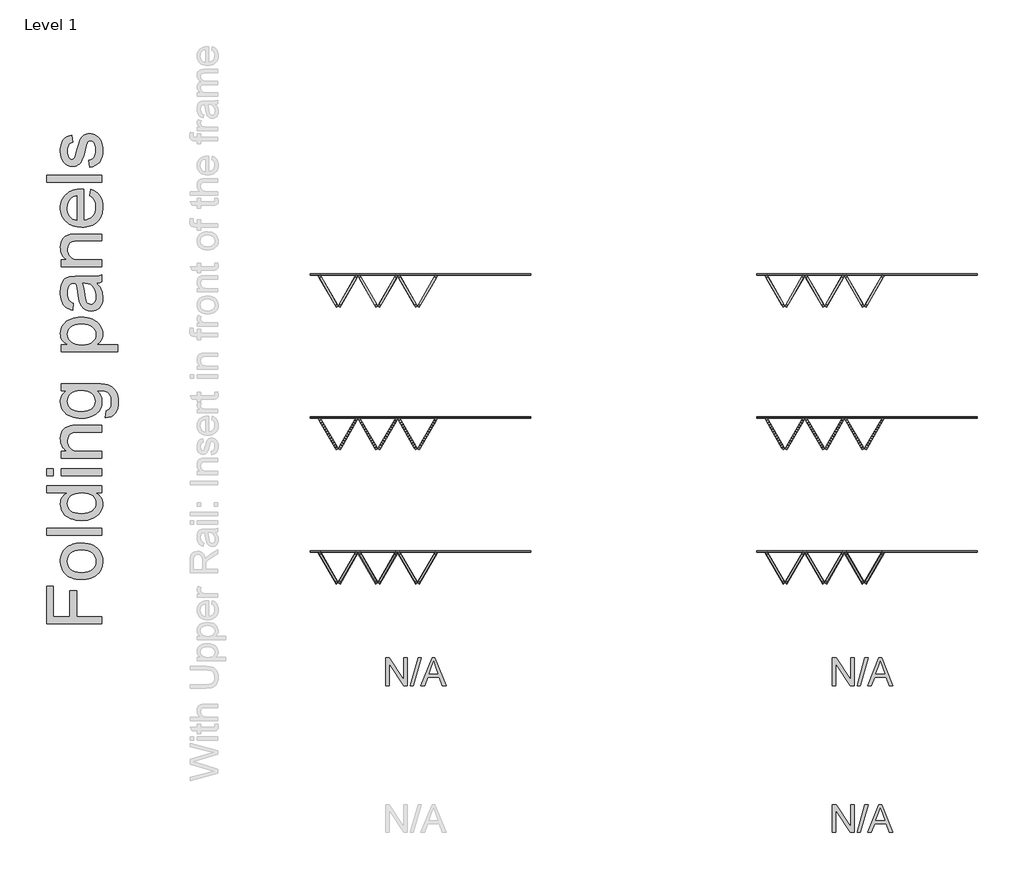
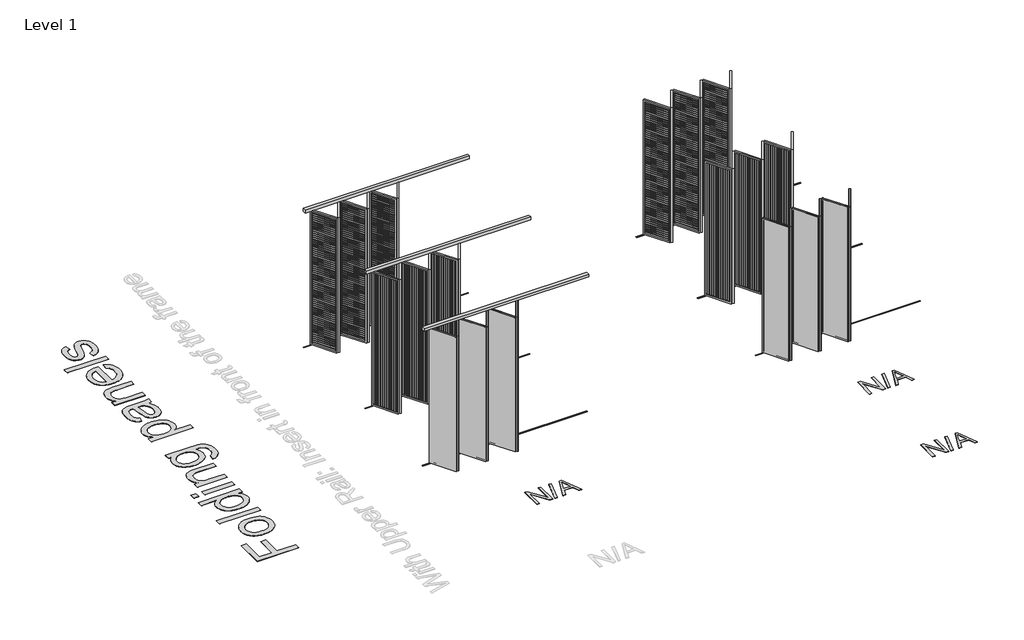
# One storey, part 18 of 80: 10 proxies.
"""IFC4 building model written with IfcOpenShell, lengths in millimetres."""

from ifc_helpers import new_model, si_unit, origin, origin_with_axes, place, context, project, spatial, polyline, outline, extrude, transform, mapped, element, save
from components import generic_models_d005b666, generic_models_47430486, generic_models_d322cddd, generic_models_aa4b12a0, generic_models_be9513f8, generic_models_5e704084, generic_models_0fea99e4, generic_models_9688aaa0, generic_models_989afa71, generic_models_e845687a

model = new_model("IFC4")

# Units and contexts
model_context = context("Model", 3, world=origin())
ifc_project = project(units=[si_unit("LENGTHUNIT", "METRE", prefix="MILLI")], contexts=[model_context])

# Site, building, storey
site = spatial("IfcSite", under=ifc_project)
building = spatial("IfcBuilding", under=site)
storey = spatial("IfcBuildingStorey", under=building, Name="Level 1", Elevation=0.0)

# Proxies
placement = place(None, origin())
generic_models_shape = generic_models_d005b666(model_context)
element("IfcBuildingElementProxy", 1, Name="Renson_Amani_Loggia_Linea_Folding : Renson_Amani_Loggia_Linea_Folding", ObjectType="Renson_Amani_Loggia_Linea_Folding : Renson_Amani_Loggia_Linea_Folding", at=placement, inside=storey, context=model_context, shape_type="MappedRepresentation", body=[
    mapped(generic_models_shape, transform((392460.5749426, -56930.6483736, 0.0), x_axis=(1.0, 0.0, 0.0), y_axis=(0.0, 1.0, 0.0), z_axis=(0.0, 0.0, 1.0))),
])
generic_models_2_shape = generic_models_47430486(model_context)
generic_models_3_shape = generic_models_d322cddd(model_context)
generic_models_4_shape = generic_models_aa4b12a0(model_context)
element("IfcBuildingElementProxy", 2, Name="Renson_Amani_Loggia_Plano_Folding : Renson_Amani_Loggia_Plano_Folding", ObjectType="Renson_Amani_Loggia_Plano_Folding : Renson_Amani_Loggia_Plano_Folding", at=placement, inside=storey, context=model_context, shape_type="MappedRepresentation", body=[
    mapped(generic_models_2_shape, transform((392460.5749426, -54341.0986495, 0.0), x_axis=(1.0, 0.0, 0.0), y_axis=(0.0, 1.0, 0.0), z_axis=(0.0, 0.0, 1.0))),
    mapped(generic_models_3_shape, transform((392460.5749426, -54341.0986495, 0.0), x_axis=(1.0, 0.0, 0.0), y_axis=(0.0, 1.0, 0.0), z_axis=(0.0, 0.0, 1.0))),
    mapped(generic_models_4_shape, transform((392460.5749426, -54341.0986495, 0.0), x_axis=(1.0, 0.0, 0.0), y_axis=(0.0, 1.0, 0.0), z_axis=(0.0, 0.0, 1.0))),
])
generic_models_5_shape = generic_models_be9513f8(model_context)
generic_models_6_shape = generic_models_5e704084(model_context)
generic_models_7_shape = generic_models_0fea99e4(model_context)
element("IfcBuildingElementProxy", 3, Name="Renson_Amani_Loggia_Plano_Folding : Renson_Amani_Loggia_Plano_Folding", ObjectType="Renson_Amani_Loggia_Plano_Folding : Renson_Amani_Loggia_Plano_Folding", at=placement, inside=storey, context=model_context, shape_type="MappedRepresentation", body=[
    mapped(generic_models_5_shape, transform((400560.5749426, -54341.0986495, 0.0), x_axis=(1.0, 0.0, 0.0), y_axis=(0.0, 1.0, 0.0), z_axis=(0.0, 0.0, 1.0))),
    mapped(generic_models_6_shape, transform((400560.5749426, -54341.0986495, 0.0), x_axis=(1.0, 0.0, 0.0), y_axis=(0.0, 1.0, 0.0), z_axis=(0.0, 0.0, 1.0))),
    mapped(generic_models_7_shape, transform((400560.5749426, -54341.0986495, 0.0), x_axis=(1.0, 0.0, 0.0), y_axis=(0.0, 1.0, 0.0), z_axis=(0.0, 0.0, 1.0))),
])
generic_models_8_shape = generic_models_9688aaa0(model_context)
element("IfcBuildingElementProxy", 4, Name="Renson_Amani_Loggia_Linea_Folding : Renson_Amani_Loggia_Linea_Folding", ObjectType="Renson_Amani_Loggia_Linea_Folding : Renson_Amani_Loggia_Linea_Folding", at=placement, inside=storey, context=model_context, shape_type="MappedRepresentation", body=[
    mapped(generic_models_8_shape, transform((400560.5749426, -56930.6483736, 0.0), x_axis=(1.0, 0.0, 0.0), y_axis=(0.0, 1.0, 0.0), z_axis=(0.0, 0.0, 1.0))),
])
generic_models_9_shape = generic_models_989afa71(model_context)
element("IfcBuildingElementProxy", 5, Name="Renson_Amani_Loggia_Canvas_Folding : Renson_Amani_Loggia_Canvas_Folding", ObjectType="Renson_Amani_Loggia_Canvas_Folding : Renson_Amani_Loggia_Canvas_Folding", at=placement, inside=storey, context=model_context, shape_type="MappedRepresentation", body=[
    mapped(generic_models_9_shape, transform((400560.5749426, -59361.5282583, 0.0), x_axis=(1.0, 0.0, 0.0), y_axis=(0.0, 1.0, 0.0), z_axis=(0.0, 0.0, 1.0))),
])
generic_models_10_shape = generic_models_e845687a(model_context)
element("IfcBuildingElementProxy", 6, Name="Renson_Amani_Loggia_Canvas_Folding : Renson_Amani_Loggia_Canvas_Folding", ObjectType="Renson_Amani_Loggia_Canvas_Folding : Renson_Amani_Loggia_Canvas_Folding", at=placement, inside=storey, context=model_context, shape_type="MappedRepresentation", body=[
    mapped(generic_models_10_shape, transform((392460.5749426, -59361.5282583, 0.0), x_axis=(1.0, 0.0, 0.0), y_axis=(0.0, 1.0, 0.0), z_axis=(0.0, 0.0, 1.0))),
])
element("IfcBuildingElementProxy", 7, Name="1000mm Arial", ObjectType="1000mm Arial", at=placement, inside=storey, context=model_context, shape_type="SweptSolid", body=[
    extrude(outline(polyline([(388538.2731482, -60078.4428841), (387533.7100467, -60078.4428841), (387533.7100467, -59403.5020502), (387659.2804344, -59403.5020502), (387659.2804344, -59952.8724964), (387957.5101052, -59952.8724964), (387957.5101052, -59481.9835425), (388083.0804929, -59481.9835425), (388083.0804929, -59952.8724964), (388538.2731482, -59952.8724964), (388538.2731482, -60078.4428841)])), origin_with_axes(), (0.0, 0.0, 1.0), 5.0),
    extrude(outline(polyline([(388169.4101344, -59277.9316626), (388119.9874876, -59276.2340404), (388073.8681146, -59271.1411741), (388031.0520153, -59262.6530634), (387991.5391897, -59250.7697086), (387955.3296379, -59235.4911095), (387922.4233599, -59216.8172661), (387892.8203556, -59194.7481785), (387866.520625, -59169.2838466), (387830.7900863, -59121.4285304), (387805.2682728, -59068.6068073), (387789.9551848, -59010.8186772), (387784.8508221, -58948.0641402), (387786.4047403, -58912.5961006), (387791.066495, -58878.787362), (387798.8360861, -58846.6379245), (387809.7135136, -58816.1477881), (387823.6987776, -58787.3169528), (387840.791878, -58760.1454186), (387860.9928149, -58734.6331854), (387884.3015881, -58710.7802533), (387910.3503159, -58689.1959269), (387938.7711161, -58670.4895106), (387969.5639887, -58654.6610046), (388002.7289338, -58641.7104087), (388038.2659513, -58631.6377231), (388076.1750412, -58624.4429476), (388159.1094385, -58618.6871272), (388226.3245447, -58621.2316443), (388285.9674132, -58628.8651957), (388338.0380439, -58641.5877814), (388382.5364369, -58659.3994013), (388420.9724412, -58682.0777935), (388454.8559058, -58709.4006958), (388484.1868307, -58741.3681084), (388508.965216, -58777.9800311), (388528.6545669, -58817.8109213), (388542.718389, -58859.4352362), (388551.1566823, -58902.8529758), (388553.9694467, -58948.0641402), (388552.4212766, -58984.0916671), (388547.7767664, -59018.3525939), (388540.0359161, -59050.8469208), (388529.1987257, -59081.5746476), (388515.2651951, -59110.5357745), (388498.2353244, -59137.7303014), (388478.1091136, -59163.1582282), (388454.8865627, -59186.8195551), (388428.7516126, -59208.1739553), (388399.8882044, -59226.6811021), (388368.296338, -59242.3409956), (388333.9760136, -59255.1536357), (388296.927231, -59265.1190224), (388257.1499903, -59272.2371558), (388169.4101344, -59277.9316626)]), holes=[polyline([(388169.1648797, -59152.3612749), (388230.0723426, -59148.7284402), (388282.8097594, -59137.8299361), (388327.3771303, -59119.6657625), (388363.7744552, -59094.2359196), (388392.0477194, -59063.3031752), (388412.2429081, -59028.6302972), (388424.3600213, -58990.2172855), (388428.399059, -58948.0641402), (388424.3370286, -58906.1255928), (388412.1509376, -58867.8658653), (388391.8407857, -58833.2849577), (388363.4065732, -58802.3828701), (388326.6490305, -58776.9530272), (388281.3688883, -58758.7888537), (388227.5661465, -58747.8903496), (388165.2408051, -58744.2575149), (388106.2647228, -58747.9133422), (388054.9068634, -58758.8808242), (388011.167227, -58777.1599608), (387975.0458136, -58802.7507521), (387946.7725494, -58833.7678028), (387926.5773608, -58868.3257178), (387914.4602475, -58906.4244969), (387910.4212098, -58948.0641402), (387914.4449191, -58990.2172855), (387926.5160471, -59028.6302972), (387946.6345937, -59063.3031752), (387974.800559, -59094.2359196), (388011.0905849, -59119.6657625), (388055.5813137, -59137.8299361), (388108.2727453, -59148.7284402), (388169.1648797, -59152.3612749)])]), origin_with_axes(), (0.0, 0.0, 1.0), 5.0),
    extrude(outline(polyline([(388538.2731482, -58477.420441), (387533.7100467, -58477.420441), (387533.7100467, -58351.8500534), (388538.2731482, -58351.8500534), (388538.2731482, -58477.420441)])), origin_with_axes(), (0.0, 0.0, 1.0), 5.0),
    extrude(outline(polyline([(388538.2731482, -57708.3018165), (388419.8151458, -57708.3018165), (388451.2575601, -57726.0942759), (388478.5076524, -57745.8717652), (388501.5654229, -57767.6342845), (388520.4308715, -57791.3818337), (388535.1039981, -57817.1144129), (388545.5848029, -57844.8320219), (388551.8732857, -57874.5346609), (388553.9694467, -57906.2223299), (388550.9344202, -57947.670368), (388541.8293409, -57987.4016235), (388526.6542086, -58025.4160963), (388505.4090233, -58061.7137865), (388478.7299145, -58095.1603912), (388447.2530113, -58124.6216077), (388410.9783137, -58150.0974358), (388369.9058218, -58171.5878757), (388324.8172847, -58188.6484033), (388276.4944518, -58200.8344943), (388224.937323, -58208.146149), (388170.1458984, -58210.5833672), (388116.358485, -58208.3377542), (388065.1155888, -58201.6009152), (388016.4172097, -58190.3728501), (387970.2633477, -58174.653559), (387928.0029035, -58154.4507061), (387890.9847777, -58129.7719556), (387859.2089704, -58100.6173075), (387832.6754815, -58066.9867618), (387811.752193, -58030.0682707), (387796.806987, -57991.0497866), (387787.8398633, -57949.9313094), (387784.8508221, -57906.7128392), (387786.9891362, -57875.1056444), (387793.4040785, -57845.276546), (387804.095649, -57817.2255439), (387819.0638477, -57790.952638), (387837.4502832, -57766.7490684), (387858.3965643, -57744.906075), (387881.902691, -57725.4236577), (387907.9686632, -57708.3018165), (387533.7100467, -57708.3018165), (387533.7100467, -57582.7314288), (388538.2731482, -57582.7314288), (388538.2731482, -57708.3018165)]), holes=[polyline([(388169.6553891, -58085.0129795), (388230.5475235, -58081.4721153), (388283.2389551, -58070.8495227), (388327.7296839, -58053.1452017), (388364.0197099, -58028.3591523), (388392.1856751, -57998.7599801), (388412.3042217, -57966.6162907), (388424.3753497, -57931.9280843), (388428.399059, -57894.6953607), (388424.5592907, -57857.2863603), (388413.0399857, -57822.8050875), (388393.8411441, -57791.2515422), (388366.9627658, -57762.6257244), (388332.1902531, -57738.8590147), (388289.309008, -57721.8827935), (388238.3190306, -57711.6970607), (388179.2203209, -57708.3018165), (388114.4271045, -57711.7583744), (388058.8615949, -57722.1280481), (388012.5237919, -57739.4108377), (387975.4136956, -57763.6067431), (387946.9794831, -57792.8610259), (387926.6693313, -57825.3189478), (387914.4832402, -57860.9805087), (387910.4212098, -57899.8457086), (387914.3222918, -57937.8141962), (387926.0255378, -57972.5024027), (387945.5309477, -58003.910328), (387972.8385216, -58032.0379722), (388008.5460678, -58055.2145379), (388053.2513944, -58071.7692277), (388106.9545015, -58081.7020416), (388169.6553891, -58085.0129795)])]), origin_with_axes(), (0.0, 0.0, 1.0), 5.0),
    extrude(outline(polyline([(388538.2731482, -57394.3758472), (387800.5471206, -57394.3758472), (387800.5471206, -57268.8054596), (388538.2731482, -57268.8054596), (388538.2731482, -57394.3758472)])), origin_with_axes(), (0.0, 0.0, 1.0), 5.0),
    extrude(outline(polyline([(387659.2804344, -57394.3758472), (387533.7100467, -57394.3758472), (387533.7100467, -57268.8054596), (387659.2804344, -57268.8054596), (387659.2804344, -57394.3758472)])), origin_with_axes(), (0.0, 0.0, 1.0), 5.0),
    extrude(outline(polyline([(388538.2731482, -57080.449878), (387800.5471206, -57080.449878), (387800.5471206, -56954.8794903), (387903.5540792, -56954.8794903), (387875.7330033, -56934.1631355), (387851.6214042, -56911.2548171), (387831.2192819, -56886.1545351), (387814.5266364, -56858.8622896), (387801.5434676, -56829.3780805), (387792.2697757, -56797.7019079), (387786.7055605, -56763.8337717), (387784.8508221, -56727.773672), (387790.8289045, -56665.8775263), (387798.3015076, -56636.8838266), (387808.7631518, -56609.1930422), (387821.65435, -56583.8551698), (387836.4156151, -56561.9202058), (387853.046947, -56543.3881503), (387871.5483456, -56528.2590033), (387914.0693729, -56505.4196627), (387963.8867264, -56490.6124124), (388011.5274448, -56485.6460055), (388085.2877848, -56483.9905365), (388538.2731482, -56483.9905365), (388538.2731482, -56609.5609242), (388102.2103566, -56609.5609242), (388037.2791845, -56613.1784305), (387991.1099941, -56624.0309493), (387973.6432635, -56632.6531836), (387958.0312713, -56644.0498613), (387944.2740176, -56658.2209823), (387932.3715022, -56675.1665467), (387915.9087829, -56715.0510863), (387910.4212098, -56761.3735609), (387913.5022215, -56799.5029968), (387922.7452566, -56834.9193031), (387938.1503152, -56867.6224796), (387959.7173972, -56897.6125264), (387989.8990492, -56922.6668231), (388031.1478179, -56940.5627494), (388083.4637033, -56951.3003051), (388146.8467054, -56954.8794903), (388538.2731482, -56954.8794903), (388538.2731482, -57080.449878)])), origin_with_axes(), (0.0, 0.0, 1.0), 5.0),
    extrude(outline(polyline([(388601.0583421, -56342.7238504), (388616.7546405, -56217.1534627), (388637.9078553, -56211.8498306), (388655.9953867, -56203.2965742), (388671.0172348, -56191.4936935), (388682.9733997, -56176.4411885), (388695.205476, -56152.0843348), (388703.9426734, -56123.6501222), (388709.1849918, -56091.1385509), (388710.9324313, -56054.5496208), (388708.9550656, -56015.3395315), (388703.0229684, -55980.8505944), (388693.1361398, -55951.0828097), (388679.2945797, -55926.0361772), (388661.8814986, -55905.1895308), (388641.2801069, -55888.0217043), (388617.4904045, -55874.5326978), (388590.5123915, -55864.7225113), (388536.4950519, -55857.9166944), (388444.0953575, -55856.1385981), (388485.2981409, -55897.9238614), (388514.7287005, -55944.5529043), (388525.0293964, -55969.6838431), (388532.3870363, -55996.0257267), (388538.2731482, -56052.3423288), (388536.5601977, -56087.7950401), (388531.4213461, -56121.1899114), (388522.8565934, -56152.5269428), (388510.8659396, -56181.8061343), (388495.4493847, -56209.0274859), (388476.6069288, -56234.1909976), (388454.3385718, -56257.2966694), (388428.6443137, -56278.3445012), (388371.1014383, -56313.377597), (388308.1016466, -56338.4012369), (388239.6449386, -56353.4154209), (388165.7313145, -56358.4201488), (388114.0209015, -56356.1745358), (388064.3491679, -56349.4376968), (388016.7161138, -56338.2096317), (387971.121739, -56322.4903406), (387929.0835568, -56302.517414), (387892.1190805, -56278.5284422), (387860.2283101, -56250.5234253), (387833.4112455, -56218.5023633), (387812.1660603, -56182.9787582), (387796.990928, -56144.4661118), (387787.8858486, -56102.9644242), (387784.8508221, -56058.4736954), (387786.5676048, -56028.4338313), (387791.7179527, -55999.7505319), (387800.3018659, -55972.4237975), (387812.3193444, -55946.4536279), (387827.7703882, -55921.8400232), (387846.6549973, -55898.5829833), (387868.9731717, -55876.6825083), (387894.7249113, -55856.1385981), (387800.5471206, -55856.1385981), (387800.5471206, -55730.5682104), (388437.4734816, -55730.5682104), (388517.2808819, -55732.7141887), (388584.5343091, -55739.1521236), (388639.2337633, -55749.8820151), (388681.3792444, -55764.9038633), (388715.3700079, -55784.5778858), (388745.6053093, -55809.2643005), (388772.0851488, -55838.9631074), (388794.8095262, -55873.6743065), (388813.0503418, -55913.0453442), (388826.0794958, -55956.7236669), (388833.8969882, -56004.7092747), (388836.502819, -56057.0021674), (388832.8316632, -56118.5227669), (388821.818196, -56173.8353578), (388803.4624173, -56222.9399399), (388777.7643271, -56265.8365134), (388744.6932686, -56300.4863988), (388704.2185849, -56324.8509168), (388656.3402761, -56338.9300673), (388601.0583421, -56342.7238504)]), holes=[polyline([(388157.1474012, -56232.8497611), (388219.2351521, -56229.5005021), (388272.3251226, -56219.4527252), (388316.4173125, -56202.7064302), (388351.511722, -56179.2616172), (388378.2828014, -56150.7584268), (388397.4050009, -56118.8369995), (388408.8783206, -56083.4973353), (388412.7027605, -56044.7394343), (388408.9013133, -56006.3647437), (388397.4969714, -55971.1936921), (388378.489735, -55939.2262795), (388351.879604, -55910.462506), (388317.1300839, -55886.6957963), (388273.70468, -55869.7195751), (388221.6033925, -55859.5338423), (388160.8262212, -55856.1385981), (388102.5859028, -55859.633477), (388051.9638074, -55870.1181139), (388008.959935, -55887.5925087), (387973.5742856, -55912.0566613), (387945.944815, -55941.4412357), (387926.2094788, -55973.6768955), (387914.368277, -56008.7636408), (387910.4212098, -56046.7014716), (387914.3069634, -56084.0031731), (387925.9642241, -56118.4078038), (387945.392992, -56149.9153639), (387972.593267, -56178.5258532), (388007.4424218, -56202.2925629), (388049.8178291, -56219.2687842), (388099.7194889, -56229.4545169), (388157.1474012, -56232.8497611)])]), origin_with_axes(), (0.0, 0.0, 1.0), 5.0),
    extrude(outline(polyline([(388820.8065205, -55149.8051673), (387800.5471206, -55149.8051673), (387800.5471206, -55024.2347797), (387923.6649616, -55024.2347797), (387891.1303977, -55004.3691519), (387862.9337756, -54983.2772509), (387839.0750954, -54960.9590765), (387819.554357, -54937.4146288), (387804.3715605, -54911.9694575), (387793.5267058, -54883.9491122), (387787.019793, -54853.3535929), (387784.8508221, -54820.1828997), (387787.8858486, -54776.3896138), (387796.990928, -54735.2634724), (387812.1660603, -54696.8044755), (387833.4112455, -54661.0126231), (387860.1746606, -54628.6696643), (387891.9044827, -54600.5573485), (387928.6007117, -54576.6756757), (387970.2633477, -54557.0246458), (388015.4668478, -54541.6809009), (388062.7856695, -54530.7210831), (388112.2198126, -54524.1451925), (388163.7692771, -54521.9532289), (388218.8825985, -54524.4287682), (388271.1601629, -54531.8553859), (388320.6019702, -54544.2330822), (388367.2080205, -54561.5618571), (388409.7597046, -54583.6041199), (388447.0384134, -54610.1222804), (388479.044147, -54641.1163385), (388505.7769053, -54676.5862942), (388526.8611422, -54714.7923723), (388541.9213114, -54753.9947974), (388550.9574129, -54794.1935695), (388553.9694467, -54835.3886888), (388551.9537599, -54865.026182), (388545.9066996, -54893.1155052), (388535.8282658, -54919.6566583), (388521.7184585, -54944.6496414), (388485.2061704, -54988.764824), (388440.1712829, -55024.2347797), (388820.8065205, -55024.2347797), (388820.8065205, -55149.8051673)]), holes=[polyline([(388175.2962463, -55024.2347797), (388235.8128345, -55020.8395354), (388287.8681368, -55010.6538027), (388331.4621533, -54993.6775814), (388366.5948838, -54969.9108717), (388393.6342105, -54941.3003824), (388412.9480152, -54909.7928223), (388424.5362981, -54875.3881916), (388428.399059, -54838.0864901), (388424.3983423, -54800.2482941), (388412.3961922, -54765.2151982), (388392.3926087, -54732.9872026), (388364.3875918, -54703.5643072), (388327.9826027, -54679.0465051), (388282.7791026, -54661.5337892), (388228.7770914, -54651.0261598), (388165.9765691, -54647.5236166), (388105.9811471, -54650.9418535), (388054.0178152, -54661.1965641), (388010.0865737, -54678.2877484), (387974.1874223, -54702.2154065), (387946.2897043, -54730.8948738), (387926.3627629, -54762.2414854), (387914.4065981, -54796.2552416), (387910.4212098, -54832.9361422), (387914.659517, -54869.5020796), (387927.3744384, -54903.9067104), (387948.5659742, -54936.1500344), (387978.2341242, -54966.2320517), (388015.9803498, -54991.6082452), (388061.406112, -55009.7340977), (388114.5114108, -55020.6096092), (388175.2962463, -55024.2347797)])]), origin_with_axes(), (0.0, 0.0, 1.0), 5.0),
    extrude(outline(polyline([(388444.0953575, -53909.7975889), (388472.0390607, -53939.5730379), (388495.5375231, -53969.793011), (388514.5907448, -54000.4575081), (388529.1987257, -54031.5665293), (388540.0359161, -54063.4726282), (388547.7767664, -54096.5283583), (388552.4212766, -54130.7337197), (388553.9694467, -54166.0887122), (388550.2446415, -54221.9991113), (388539.0702259, -54271.0270514), (388520.4461999, -54313.1725324), (388494.3725635, -54348.4355545), (388462.5047856, -54376.279623), (388426.4983354, -54396.1682434), (388386.3532126, -54408.1014156), (388342.0694175, -54412.0791397), (388290.0141152, -54406.0704004), (388265.7798887, -54398.5594764), (388242.7412788, -54388.0441827), (388202.2742593, -54360.2384352), (388170.6364077, -54324.8911068), (388146.724078, -54283.3510982), (388129.4336243, -54236.96731), (388119.8073787, -54191.7791382), (388110.5490152, -54128.3194941), (388090.6833874, -53999.9286778), (388079.4629866, -53950.3565789), (388067.3841944, -53910.5333529), (388039.4251628, -53909.7975889), (388008.9829277, -53911.9588957), (387983.3844722, -53918.4428158), (387962.6297963, -53929.2493494), (387946.7189, -53944.3784965), (387930.8386605, -53970.528775), (387919.4956323, -54002.3812244), (387912.6898154, -54039.9358447), (387910.4212098, -54083.192636), (387911.9310588, -54123.4144008), (387916.4606059, -54157.9953083), (387924.009851, -54186.9353586), (387934.5787941, -54210.2345517), (387948.9951698, -54229.3797438), (387968.0867125, -54245.8577915), (387991.8534223, -54259.6686948), (388020.295299, -54270.8124535), (388004.5990006, -54396.3828412), (387968.4239377, -54386.8255736), (387935.9276948, -54374.585833), (387907.1102718, -54359.6636196), (387881.9716688, -54342.0589333), (387860.006048, -54321.0130175), (387840.7075717, -54295.7671155), (387824.0762398, -54266.3212275), (387810.1120524, -54232.6753534), (387799.0602642, -54195.5116076), (387791.1661297, -54155.5121049), (387786.429649, -54112.6768451), (387784.8508221, -54067.0058282), (387790.4303657, -53982.1170578), (387797.4047952, -53946.2715559), (387807.1689965, -53914.8253095), (387832.3382563, -53864.088251), (387847.0612003, -53844.5368558), (387863.2096871, -53828.86355), (387901.3774441, -53805.5030433), (387948.4356826, -53790.3585678), (387991.8457581, -53785.7600429), (388058.3097719, -53784.2272012), (388214.5369925, -53784.2272012), (388350.6226739, -53782.6330459), (388432.6910156, -53777.85058), (388486.6163847, -53768.4082755), (388538.2731482, -53752.8346043), (388538.2731482, -53878.404992), (388494.6178181, -53898.5158744), (388444.0953575, -53909.7975889)]), holes=[polyline([(388192.9545821, -53909.7975889), (388213.8625422, -53994.1651932), (388231.4595643, -54112.3779409), (388241.0858098, -54177.5237109), (388251.8157013, -54220.4126202), (388265.7339035, -54248.524936), (388284.9250809, -54269.3409256), (388307.9177056, -54282.2167954), (388333.2402496, -54286.508752), (388352.7533237, -54284.1711685), (388370.5802721, -54277.158418), (388386.7210946, -54265.4705004), (388401.1757914, -54249.1074158), (388413.085971, -54228.2224484), (388421.5932421, -54202.9688823), (388426.6976048, -54173.3467174), (388428.399059, -54139.3559539), (388426.521328, -54104.652419), (388420.8881349, -54071.9109215), (388411.4994799, -54041.1314612), (388398.3553627, -54012.3140383), (388382.5441011, -53986.3170439), (388365.1540127, -53963.9988696), (388346.1850973, -53945.3595151), (388325.637355, -53930.3989807), (388307.2432553, -53921.7077685), (388284.9250809, -53915.4997599), (388228.5165083, -53910.5333529), (388192.9545821, -53909.7975889)])]), origin_with_axes(), (0.0, 0.0, 1.0), 5.0),
    extrude(outline(polyline([(388538.2731482, -53611.5679182), (387800.5471206, -53611.5679182), (387800.5471206, -53485.9975305), (387903.5540792, -53485.9975305), (387875.7330033, -53465.2811756), (387851.6214042, -53442.3728572), (387831.2192819, -53417.2725753), (387814.5266364, -53389.9803297), (387801.5434676, -53360.4961207), (387792.2697757, -53328.8199481), (387786.7055605, -53294.9518119), (387784.8508221, -53258.8917121), (387790.8289045, -53196.9955664), (387798.3015076, -53168.0018667), (387808.7631518, -53140.3110824), (387821.65435, -53114.9732099), (387836.4156151, -53093.038246), (387853.046947, -53074.5061905), (387871.5483456, -53059.3770434), (387914.0693729, -53036.5377029), (387963.8867264, -53021.7304526), (388011.5274448, -53016.7640456), (388085.2877848, -53015.1085767), (388538.2731482, -53015.1085767), (388538.2731482, -53140.6789644), (388102.2103566, -53140.6789644), (388037.2791845, -53144.2964706), (387991.1099941, -53155.1489895), (387973.6432635, -53163.7712238), (387958.0312713, -53175.1679014), (387944.2740176, -53189.3390224), (387932.3715022, -53206.2845868), (387915.9087829, -53246.1691265), (387910.4212098, -53292.491601), (387913.5022215, -53330.621037), (387922.7452566, -53366.0373432), (387938.1503152, -53398.7405198), (387959.7173972, -53428.7305666), (387989.8990492, -53453.7848633), (388031.1478179, -53471.6807895), (388083.4637033, -53482.4183452), (388146.8467054, -53485.9975305), (388538.2731482, -53485.9975305), (388538.2731482, -53611.5679182)])), origin_with_axes(), (0.0, 0.0, 1.0), 5.0),
    extrude(outline(polyline([(388318.5249698, -52325.9429724), (388334.2212682, -52202.8251313), (388383.532784, -52221.7020762), (388426.9888447, -52247.1855686), (388464.5894503, -52279.2756084), (388496.3346008, -52317.9721958), (388521.5498459, -52362.8767918), (388539.5607352, -52413.5908577), (388550.3672688, -52470.1143934), (388553.9694467, -52532.447399), (388552.4155285, -52572.4660623), (388547.7537738, -52610.3617399), (388539.9841827, -52646.1344318), (388529.1067552, -52679.7841381), (388515.1214912, -52711.3108586), (388498.0283908, -52740.7145935), (388477.827454, -52767.9953427), (388454.5186807, -52793.1531062), (388428.4048072, -52815.74336), (388399.7885697, -52835.3215799), (388368.6699682, -52851.887766), (388335.0490027, -52865.4419183), (388298.9256733, -52875.9840367), (388260.2999798, -52883.5141213), (388219.1719224, -52888.0321721), (388175.541501, -52889.538189), (388130.4261392, -52888.0168436), (388087.9089441, -52883.4528076), (388047.9899155, -52875.846081), (388010.6690535, -52865.1966636), (387975.9463581, -52851.5045556), (387943.8218293, -52834.7697569), (387914.2954671, -52814.9922676), (387887.3672714, -52792.1720876), (387863.3399786, -52766.9261857), (387842.5163249, -52739.8715306), (387824.8963101, -52711.0081224), (387810.4799344, -52680.3359611), (387799.2671978, -52647.8550466), (387791.2581002, -52613.5653789), (387786.4526416, -52577.4669582), (387784.8508221, -52539.5597842), (387786.4488095, -52502.892296), (387791.2427718, -52467.9377583), (387799.2327089, -52434.6961711), (387810.4186208, -52403.1675345), (387824.8005075, -52373.3518484), (387842.3783691, -52345.2491129), (387863.1522055, -52318.8593279), (387887.1220168, -52294.1824934), (387913.9888987, -52271.8509067), (387943.4539473, -52252.4968649), (387975.5171624, -52236.1203679), (388010.1785442, -52222.7214159), (388047.4380925, -52212.3000087), (388087.2958074, -52204.8561465), (388174.805737, -52198.9010567), (388208.6508806, -52199.6368207), (388208.6508806, -52763.9678013), (388258.759474, -52756.6944677), (388302.6447303, -52742.2321067), (388340.3066496, -52720.5807185), (388371.7452317, -52691.7403029), (388396.5312812, -52657.3050153), (388414.2356022, -52618.869011), (388424.8581948, -52576.43229), (388428.399059, -52529.9948524), (388426.7589184, -52495.2606606), (388421.8384968, -52463.1629566), (388413.637794, -52433.7017401), (388402.15681, -52406.8770113), (388387.0889766, -52382.6887701), (388368.1277255, -52361.1370166), (388345.2730565, -52342.2217507), (388318.5249698, -52325.9429724)]), holes=[polyline([(388083.0804929, -52763.9678013), (388083.0804929, -52324.4714444), (388047.5492235, -52330.9247077), (388016.7391064, -52341.4553298), (387990.6501416, -52356.0633107), (387969.282329, -52374.7486504), (387943.5305894, -52408.9923328), (387925.1364896, -52447.9571674), (387914.1000297, -52491.6431544), (387910.4212098, -52540.0502936), (387913.3566016, -52584.2037972), (387922.1627768, -52624.6938093), (387936.8397356, -52661.5203298), (387957.3874778, -52694.6833589), (387982.8556418, -52722.512099), (388012.2938656, -52743.3357527), (388045.7021493, -52757.1543202), (388083.0804929, -52763.9678013)])]), origin_with_axes(), (0.0, 0.0, 1.0), 5.0),
    extrude(outline(polyline([(388538.2731482, -52073.330669), (387533.7100467, -52073.330669), (387533.7100467, -51947.7602813), (388538.2731482, -51947.7602813), (388538.2731482, -52073.330669)])), origin_with_axes(), (0.0, 0.0, 1.0), 5.0),
    extrude(outline(polyline([(388318.5249698, -51806.4935952), (388302.8286713, -51680.9232075), (388331.4621533, -51673.3356413), (388356.5394426, -51661.1188934), (388378.0605393, -51644.2729637), (388396.0254434, -51622.7978523), (388410.1889002, -51596.6322453), (388420.3056551, -51565.7148293), (388426.375708, -51530.0456042), (388428.399059, -51489.62457), (388426.5443206, -51449.249521), (388420.9801054, -51414.4540156), (388411.7064135, -51385.2380539), (388398.7232447, -51361.6016357), (388383.2415441, -51343.3608201), (388366.4722565, -51330.3316661), (388348.4153819, -51322.5141737), (388329.0709203, -51319.9083429), (388312.1176917, -51322.5295021), (388297.0651867, -51330.3929798), (388283.9134054, -51343.4987758), (388272.6623477, -51361.8468903), (388256.7207946, -51408.8744721), (388236.8551669, -51491.096098), (388203.7151305, -51605.6913395), (388175.4188737, -51680.1874435), (388161.2324242, -51705.7629064), (388144.5474429, -51728.0427597), (388125.3639297, -51747.0270035), (388103.6818846, -51762.7156378), (388080.1527653, -51775.0013635), (388055.4280296, -51783.776882), (388029.5076773, -51789.042193), (388002.3917086, -51790.7972967), (387953.7393147, -51785.1564395), (387908.8270545, -51768.2338677), (387869.4330242, -51741.562423), (387837.3353201, -51706.6749472), (387817.1324672, -51672.0020691), (387800.1792386, -51626.8445542), (387788.6829262, -51574.6359677), (387784.8508221, -51518.8098749), (387786.391328, -51476.6107444), (387791.0128455, -51437.0787584), (387798.7153748, -51400.2139168), (387809.4989158, -51366.0162196), (387822.9112802, -51335.298073), (387838.5002797, -51308.871883), (387856.2659144, -51286.7376497), (387876.2081842, -51268.8953729), (387899.0245322, -51254.4253477), (387925.4124011, -51242.4078692), (387955.3717911, -51232.8429374), (387988.9027021, -51225.7305521), (388004.5990006, -51351.3009398), (387983.6220626, -51357.2866864), (387965.0823429, -51367.1505224), (387948.9798414, -51380.8924478), (387935.3145581, -51398.5124625), (387924.4237182, -51420.0872087), (387916.6445469, -51445.6933284), (387911.9770441, -51475.3308216), (387910.4212098, -51508.9996884), (387911.9080662, -51548.0564936), (387916.3686354, -51581.1045595), (387923.8029174, -51608.1438861), (387934.2109122, -51629.1744735), (387946.5962727, -51644.947414), (387959.9626518, -51656.2138001), (387974.3100496, -51662.9736318), (387989.6384661, -51665.226909), (388008.9522708, -51661.4867754), (388026.1814109, -51650.2663746), (388041.5711411, -51631.0751971), (388053.8951879, -51603.4227338), (388080.6279462, -51495.2654273), (388113.4307575, -51384.3183489), (388139.7343201, -51310.9565477), (388152.5642047, -51285.1434943), (388167.9999201, -51262.273497), (388186.0414663, -51242.3465556), (388206.6888432, -51225.3626701), (388229.9727079, -51211.7893573), (388255.9237169, -51202.0941339), (388284.5418705, -51196.2769999), (388315.8271685, -51194.3379552), (388347.2504222, -51196.614225), (388377.753971, -51203.4430346), (388407.3378148, -51214.8243838), (388436.0019536, -51230.7582727), (388462.6044204, -51250.9841183), (388486.0032481, -51275.2413373), (388506.1984368, -51303.5299299), (388523.1899864, -51335.849896), (388536.6560003, -51371.3198517), (388546.2745816, -51409.0584131), (388552.0457304, -51449.06558), (388553.9694467, -51491.3413526), (388550.2599699, -51558.9243408), (388539.1315396, -51617.9540726), (388520.5841556, -51668.4305481), (388494.6178181, -51710.3537671), (388461.3551544, -51744.5974495), (388420.9187918, -51772.035315), (388373.3087302, -51792.6673635), (388318.5249698, -51806.4935952)])), origin_with_axes(), (0.0, 0.0, 1.0), 5.0),
])
element("IfcBuildingElementProxy", 8, Name="500mm Arial", ObjectType="500mm Arial", at=placement, inside=storey, context=model_context, shape_type="SweptSolid", body=[
    extrude(outline(polyline([(393682.1198654, -61203.4916306), (393682.1198654, -60701.2100798), (393749.3196432, -60701.2100798), (394011.7421331, -61099.1357713), (394011.7421331, -60701.2100798), (394074.5273269, -60701.2100798), (394074.5273269, -61203.4916306), (394007.3275491, -61203.4916306), (393744.9050592, -60805.4433118), (393744.9050592, -61203.4916306), (393682.1198654, -61203.4916306)])), origin_with_axes(), (0.0, 0.0, 1.0), 5.0),
    extrude(outline(polyline([(394322.1119097, -61203.4916306), (394522.607597, -60701.2100798), (394576.0731137, -60701.2100798), (394776.568801, -61203.4916306), (394710.2274146, -61203.4916306), (394652.715196, -61046.528646), (394445.8428874, -61046.528646), (394388.4532961, -61203.4916306), (394322.1119097, -61203.4916306)]), holes=[polyline([(394468.8968257, -60983.7434521), (394629.783885, -60983.7434521), (394584.5343995, -60860.2577291), (394549.3403553, -60763.9952737), (394518.0703858, -60849.4665239), (394468.8968257, -60983.7434521)])]), origin_with_axes(), (0.0, 0.0, 1.0), 5.0),
    extrude(outline(polyline([(394129.4643715, -61203.4916306), (394270.7310577, -60701.2100798), (394327.3848849, -60701.2100798), (394186.1181988, -61203.4916306), (394129.4643715, -61203.4916306)])), origin_with_axes(), (0.0, 0.0, 1.0), 5.0),
])
element("IfcBuildingElementProxy", 9, Name="500mm Arial", ObjectType="500mm Arial", at=placement, inside=storey, context=model_context, shape_type="SweptSolid", body=[
    extrude(outline(polyline([(401782.1198654, -61203.4916306), (401782.1198654, -60701.2100798), (401849.3196432, -60701.2100798), (402111.7421331, -61099.1357713), (402111.7421331, -60701.2100798), (402174.5273269, -60701.2100798), (402174.5273269, -61203.4916306), (402107.3275491, -61203.4916306), (401844.9050592, -60805.4433118), (401844.9050592, -61203.4916306), (401782.1198654, -61203.4916306)])), origin_with_axes(), (0.0, 0.0, 1.0), 5.0),
    extrude(outline(polyline([(402422.1119097, -61203.4916306), (402622.607597, -60701.2100798), (402676.0731137, -60701.2100798), (402876.568801, -61203.4916306), (402810.2274146, -61203.4916306), (402752.715196, -61046.528646), (402545.8428874, -61046.528646), (402488.4532961, -61203.4916306), (402422.1119097, -61203.4916306)]), holes=[polyline([(402568.8968257, -60983.7434521), (402729.783885, -60983.7434521), (402684.5343995, -60860.2577291), (402649.3403553, -60763.9952737), (402618.0703858, -60849.4665239), (402568.8968257, -60983.7434521)])]), origin_with_axes(), (0.0, 0.0, 1.0), 5.0),
    extrude(outline(polyline([(402229.4643715, -61203.4916306), (402370.7310577, -60701.2100798), (402427.3848849, -60701.2100798), (402286.1181988, -61203.4916306), (402229.4643715, -61203.4916306)])), origin_with_axes(), (0.0, 0.0, 1.0), 5.0),
])
element("IfcBuildingElementProxy", 10, Name="500mm Arial", ObjectType="500mm Arial", at=placement, inside=storey, context=model_context, shape_type="SweptSolid", body=[
    extrude(outline(polyline([(401782.1198654, -63862.1776025), (401782.1198654, -63359.8960518), (401849.3196432, -63359.8960518), (402111.7421331, -63757.8217432), (402111.7421331, -63359.8960518), (402174.5273269, -63359.8960518), (402174.5273269, -63862.1776025), (402107.3275491, -63862.1776025), (401844.9050592, -63464.1292837), (401844.9050592, -63862.1776025), (401782.1198654, -63862.1776025)])), origin_with_axes(), (0.0, 0.0, 1.0), 5.0),
    extrude(outline(polyline([(402422.1119097, -63862.1776025), (402622.607597, -63359.8960518), (402676.0731137, -63359.8960518), (402876.568801, -63862.1776025), (402810.2274146, -63862.1776025), (402752.715196, -63705.2146179), (402545.8428874, -63705.2146179), (402488.4532961, -63862.1776025), (402422.1119097, -63862.1776025)]), holes=[polyline([(402568.8968257, -63642.4294241), (402729.783885, -63642.4294241), (402684.5343995, -63518.943701), (402649.3403553, -63422.6812456), (402618.0703858, -63508.1524958), (402568.8968257, -63642.4294241)])]), origin_with_axes(), (0.0, 0.0, 1.0), 5.0),
    extrude(outline(polyline([(402229.4643715, -63862.1776025), (402370.7310577, -63359.8960518), (402427.3848849, -63359.8960518), (402286.1181988, -63862.1776025), (402229.4643715, -63862.1776025)])), origin_with_axes(), (0.0, 0.0, 1.0), 5.0),
])

save(model, "model.ifc")
